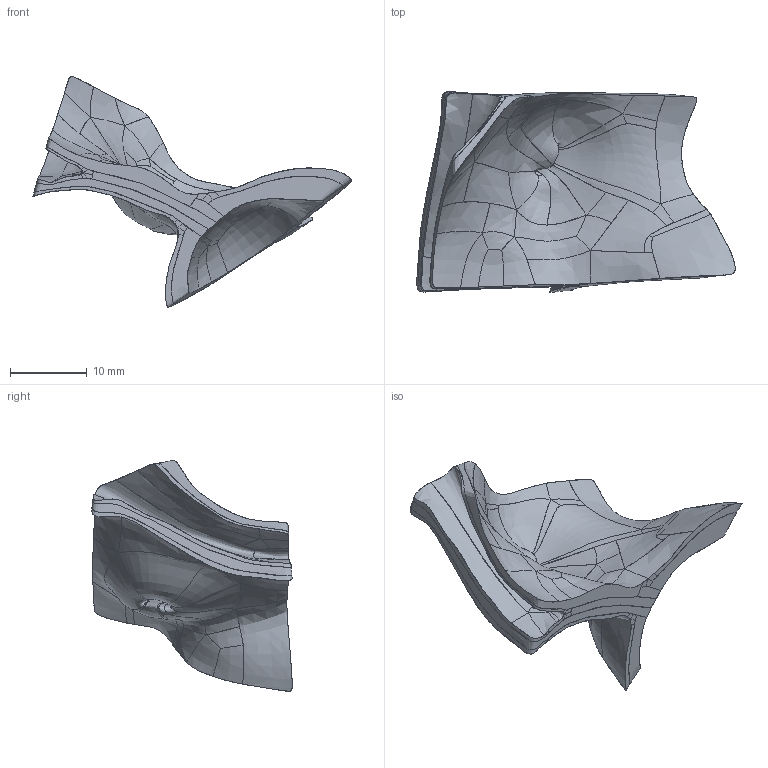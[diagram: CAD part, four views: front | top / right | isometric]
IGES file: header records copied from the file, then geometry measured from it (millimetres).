
Global section: file name: C:\FDA Main\FDA-Septal-Models\5720451\5720451.phase.40.igs; native system: Rhinoceros ( Mar  9 2011 ); preprocessor: Trout Lake IGES 012 Mar  9 2011; date: 120615.143707; units: millimetre
Bounding box: 41.5 x 26.14 x 30.1 mm (x, y, z)
Surface area: 3025.5 mm2 (no closed solid volume)
Topology: 0 solids, 0 shells, 119 faces, 476 edges, 476 vertices
Faces by surface type: bspline 119
